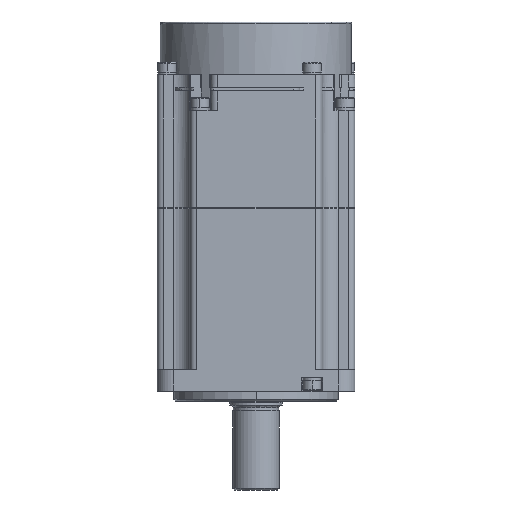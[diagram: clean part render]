
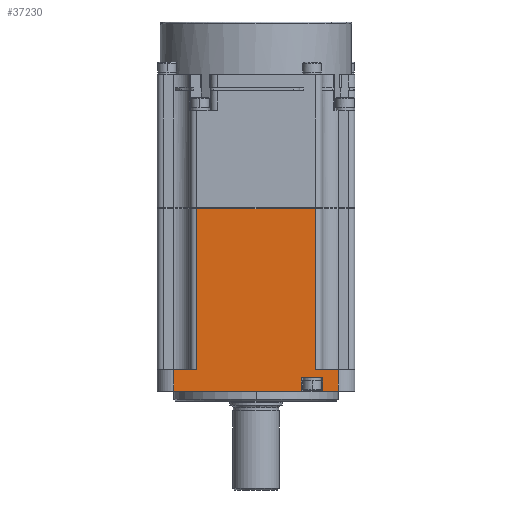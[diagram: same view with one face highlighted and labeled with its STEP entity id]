
A CAD part, front view. The second image highlights one B-rep face of the part: STEP entity #37230.
In plain terms, the highlighted planar face has unit normal (0, -1, 0).
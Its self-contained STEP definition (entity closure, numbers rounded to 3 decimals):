
#212 = EDGE_CURVE ( 'NONE', #42270, #32263, #20498, .T. ) ;
#404 = EDGE_CURVE ( 'NONE', #33074, #32263, #16385, .T. ) ;
#494 = EDGE_CURVE ( 'NONE', #28469, #33074, #13584, .T. ) ;
#886 = LINE ( 'NONE', #20659, #20988 ) ;
#2226 = LINE ( 'NONE', #15673, #37400 ) ;
#2238 = ORIENTED_EDGE ( 'NONE', *, *, #404, .F. ) ;
#2443 = ORIENTED_EDGE ( 'NONE', *, *, #212, .T. ) ;
#2919 = EDGE_LOOP ( 'NONE', ( #20744, #17867, #2443, #2238, #41595, #39196, #39006, #29336, #10461, #19879, #24285, #28726 ) ) ;
#3045 = CARTESIAN_POINT ( 'NONE',  ( -25.813, -61.499, 2.787 ) ) ;
#3403 = CARTESIAN_POINT ( 'NONE',  ( -18.813, -61.499, -36.913 ) ) ;
#3451 = LINE ( 'NONE', #39005, #34338 ) ;
#3845 = CARTESIAN_POINT ( 'NONE',  ( -18.813, -61.499, -30.413 ) ) ;
#6154 = LINE ( 'NONE', #3045, #27534 ) ;
#8557 = VERTEX_POINT ( 'NONE', #9907 ) ;
#8978 = DIRECTION ( 'NONE',  ( 0., 0., 1. ) ) ;
#9024 = AXIS2_PLACEMENT_3D ( 'NONE', #22021, #50182, #26071 ) ;
#9907 = CARTESIAN_POINT ( 'NONE',  ( 19.437, -61.499, -36.913 ) ) ;
#10461 = ORIENTED_EDGE ( 'NONE', *, *, #46611, .T. ) ;
#11332 = CARTESIAN_POINT ( 'NONE',  ( -18.813, -61.499, 2.787 ) ) ;
#11592 = VECTOR ( 'NONE', #51252, 1000. ) ;
#13416 = PLANE ( 'NONE',  #9024 ) ;
#13584 = LINE ( 'NONE', #11332, #13638 ) ;
#13638 = VECTOR ( 'NONE', #18190, 1000. ) ;
#14821 = DIRECTION ( 'NONE',  ( 0., 0., -1. ) ) ;
#15126 = CARTESIAN_POINT ( 'NONE',  ( 19.437, -61.499, 2.787 ) ) ;
#15242 = LINE ( 'NONE', #3845, #46201 ) ;
#15673 = CARTESIAN_POINT ( 'NONE',  ( -18.813, -61.499, -36.913 ) ) ;
#16385 = LINE ( 'NONE', #30391, #16712 ) ;
#16712 = VECTOR ( 'NONE', #29419, 1000. ) ;
#17867 = ORIENTED_EDGE ( 'NONE', *, *, #47496, .T. ) ;
#18009 = VECTOR ( 'NONE', #35657, 1000. ) ;
#18121 = LINE ( 'NONE', #3403, #18009 ) ;
#18190 = DIRECTION ( 'NONE',  ( 0., 0., 1. ) ) ;
#19879 = ORIENTED_EDGE ( 'NONE', *, *, #46755, .T. ) ;
#19937 = VERTEX_POINT ( 'NONE', #25813 ) ;
#20105 = VECTOR ( 'NONE', #8978, 1000. ) ;
#20498 = LINE ( 'NONE', #45195, #20105 ) ;
#20659 = CARTESIAN_POINT ( 'NONE',  ( -18.813, -61.499, -30.413 ) ) ;
#20744 = ORIENTED_EDGE ( 'NONE', *, *, #47185, .T. ) ;
#20823 = LINE ( 'NONE', #51623, #41166 ) ;
#20988 = VECTOR ( 'NONE', #48895, 1000. ) ;
#21577 = DIRECTION ( 'NONE',  ( 0., 0., 1. ) ) ;
#21873 = CARTESIAN_POINT ( 'NONE',  ( 12.937, -61.499, -32.913 ) ) ;
#22021 = CARTESIAN_POINT ( 'NONE',  ( -18.813, -61.499, 2.787 ) ) ;
#22789 = CARTESIAN_POINT ( 'NONE',  ( -25.813, -61.499, -30.413 ) ) ;
#23418 = DIRECTION ( 'NONE',  ( 0., 0., 1. ) ) ;
#23812 = EDGE_CURVE ( 'NONE', #19937, #43748, #2226, .T. ) ;
#24285 = ORIENTED_EDGE ( 'NONE', *, *, #46828, .T. ) ;
#24336 = CARTESIAN_POINT ( 'NONE',  ( 17.187, -61.499, 18.487 ) ) ;
#25179 = EDGE_CURVE ( 'NONE', #8557, #37544, #18121, .T. ) ;
#25359 = LINE ( 'NONE', #25642, #45664 ) ;
#25642 = CARTESIAN_POINT ( 'NONE',  ( 24.187, -61.499, 2.787 ) ) ;
#25813 = CARTESIAN_POINT ( 'NONE',  ( -25.813, -61.499, -36.913 ) ) ;
#25889 = CARTESIAN_POINT ( 'NONE',  ( 17.187, -61.499, -30.413 ) ) ;
#26071 = DIRECTION ( 'NONE',  ( 1., 0., 0. ) ) ;
#26283 = FACE_OUTER_BOUND ( 'NONE', #2919, .T. ) ;
#27534 = VECTOR ( 'NONE', #14821, 1000. ) ;
#28469 = VERTEX_POINT ( 'NONE', #39403 ) ;
#28726 = ORIENTED_EDGE ( 'NONE', *, *, #25179, .T. ) ;
#29336 = ORIENTED_EDGE ( 'NONE', *, *, #23812, .T. ) ;
#29419 = DIRECTION ( 'NONE',  ( 1., 0., 0. ) ) ;
#30391 = CARTESIAN_POINT ( 'NONE',  ( -18.813, -61.499, 18.487 ) ) ;
#32029 = DIRECTION ( 'NONE',  ( -1., 0., 0. ) ) ;
#32146 = CARTESIAN_POINT ( 'NONE',  ( 12.937, -61.499, -36.913 ) ) ;
#32263 = VERTEX_POINT ( 'NONE', #24336 ) ;
#33074 = VERTEX_POINT ( 'NONE', #42722 ) ;
#33952 = VERTEX_POINT ( 'NONE', #21873 ) ;
#34338 = VECTOR ( 'NONE', #43271, 1000. ) ;
#34676 = CARTESIAN_POINT ( 'NONE',  ( 24.187, -61.499, -30.413 ) ) ;
#35545 = VERTEX_POINT ( 'NONE', #22789 ) ;
#35657 = DIRECTION ( 'NONE',  ( 1., 0., 0. ) ) ;
#37230 = ADVANCED_FACE ( 'NONE', ( #26283 ), #13416, .T. ) ;
#37400 = VECTOR ( 'NONE', #44009, 1000. ) ;
#37544 = VERTEX_POINT ( 'NONE', #39899 ) ;
#39005 = CARTESIAN_POINT ( 'NONE',  ( -18.813, -61.499, -32.913 ) ) ;
#39006 = ORIENTED_EDGE ( 'NONE', *, *, #48255, .T. ) ;
#39196 = ORIENTED_EDGE ( 'NONE', *, *, #49144, .T. ) ;
#39403 = CARTESIAN_POINT ( 'NONE',  ( -18.813, -61.499, -30.413 ) ) ;
#39899 = CARTESIAN_POINT ( 'NONE',  ( 24.187, -61.499, -36.913 ) ) ;
#41166 = VECTOR ( 'NONE', #23418, 1000. ) ;
#41376 = VERTEX_POINT ( 'NONE', #34676 ) ;
#41595 = ORIENTED_EDGE ( 'NONE', *, *, #494, .F. ) ;
#42270 = VERTEX_POINT ( 'NONE', #25889 ) ;
#42722 = CARTESIAN_POINT ( 'NONE',  ( -18.813, -61.499, 18.487 ) ) ;
#43243 = VERTEX_POINT ( 'NONE', #51670 ) ;
#43271 = DIRECTION ( 'NONE',  ( 1., 0., 0. ) ) ;
#43748 = VERTEX_POINT ( 'NONE', #32146 ) ;
#44009 = DIRECTION ( 'NONE',  ( 1., 0., 0. ) ) ;
#45109 = LINE ( 'NONE', #15126, #11592 ) ;
#45195 = CARTESIAN_POINT ( 'NONE',  ( 17.187, -61.499, 2.787 ) ) ;
#45664 = VECTOR ( 'NONE', #21577, 1000. ) ;
#46201 = VECTOR ( 'NONE', #32029, 1000. ) ;
#46611 = EDGE_CURVE ( 'NONE', #43748, #33952, #20823, .T. ) ;
#46755 = EDGE_CURVE ( 'NONE', #33952, #43243, #3451, .T. ) ;
#46828 = EDGE_CURVE ( 'NONE', #43243, #8557, #45109, .T. ) ;
#47185 = EDGE_CURVE ( 'NONE', #37544, #41376, #25359, .T. ) ;
#47496 = EDGE_CURVE ( 'NONE', #41376, #42270, #15242, .T. ) ;
#48255 = EDGE_CURVE ( 'NONE', #35545, #19937, #6154, .T. ) ;
#48895 = DIRECTION ( 'NONE',  ( -1., 0., 0. ) ) ;
#49144 = EDGE_CURVE ( 'NONE', #28469, #35545, #886, .T. ) ;
#50182 = DIRECTION ( 'NONE',  ( 0., -1., 0. ) ) ;
#51252 = DIRECTION ( 'NONE',  ( 0., 0., -1. ) ) ;
#51623 = CARTESIAN_POINT ( 'NONE',  ( 12.937, -61.499, 2.787 ) ) ;
#51670 = CARTESIAN_POINT ( 'NONE',  ( 19.437, -61.499, -32.913 ) ) ;
